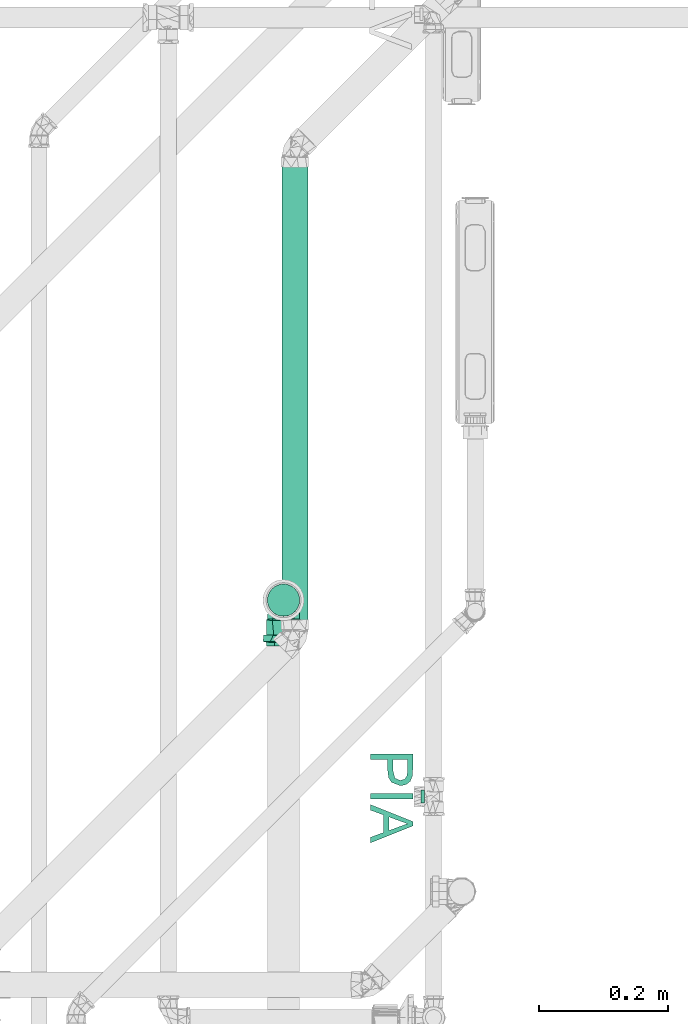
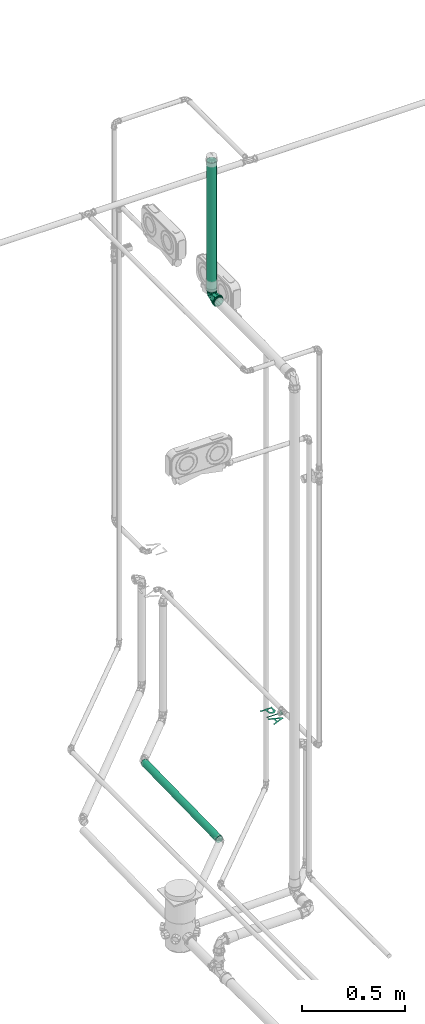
# One storey, part 54 of 589: 2 flow segments, 1 flow fitting, 1 flow terminal.
"""IFC2X3 building model written with IfcOpenShell, lengths in millimetres."""

from ifc_helpers import new_model, entity, si_unit, converted_unit, derived_unit, direction, frame, frame_2d, origin, place, context, subcontext, project, spatial, circle, extrude, face_set, faceted_brep, surface_model, source, transform, mapped, material, type_object, type_shapes, element, save


model = new_model("IFC2X3")

# Units and contexts
model_context = context("Model", 3, precision=0.01, world=origin(), true_north=direction((6.123031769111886e-17, 1.0)))
body_context = subcontext(model_context, "Body", "Model", "MODEL_VIEW")
ifc_project = project(units=[si_unit("LENGTHUNIT", "METRE", prefix="MILLI"), si_unit("AREAUNIT", "SQUARE_METRE"), si_unit("VOLUMEUNIT", "CUBIC_METRE"), converted_unit("PLANEANGLEUNIT", "DEGREE", entity("IfcRatioMeasure", 0.017453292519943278), si_unit("PLANEANGLEUNIT", "RADIAN"), dimensions=[0, 0, 0, 0, 0, 0, 0]), si_unit("MASSUNIT", "GRAM", prefix="KILO"), derived_unit("MASSDENSITYUNIT", [(si_unit("MASSUNIT", "GRAM", prefix="KILO"), 1), (si_unit("LENGTHUNIT", "METRE"), -3)]), derived_unit("IONCONCENTRATIONUNIT", [(si_unit("MASSUNIT", "GRAM", prefix="KILO"), 1), (si_unit("LENGTHUNIT", "METRE"), -3)]), derived_unit("MOMENTOFINERTIAUNIT", [(si_unit("LENGTHUNIT", "METRE"), 4)]), si_unit("TIMEUNIT", "SECOND"), si_unit("FREQUENCYUNIT", "HERTZ"), si_unit("THERMODYNAMICTEMPERATUREUNIT", "DEGREE_CELSIUS"), derived_unit("THERMALTRANSMITTANCEUNIT", [(si_unit("MASSUNIT", "GRAM", prefix="KILO"), 1), (si_unit("THERMODYNAMICTEMPERATUREUNIT", "KELVIN"), -1), (si_unit("TIMEUNIT", "SECOND"), -3)]), derived_unit("THERMALCONDUCTANCEUNIT", [(si_unit("MASSUNIT", "GRAM", prefix="KILO"), 1), (si_unit("THERMODYNAMICTEMPERATUREUNIT", "KELVIN"), -1), (si_unit("TIMEUNIT", "SECOND"), -3), (si_unit("LENGTHUNIT", "METRE"), 1)]), derived_unit("VOLUMETRICFLOWRATEUNIT", [(si_unit("LENGTHUNIT", "METRE"), 3), (si_unit("TIMEUNIT", "SECOND"), -1)]), derived_unit("MASSFLOWRATEUNIT", [(si_unit("MASSUNIT", "GRAM", prefix="KILO"), 1), (si_unit("TIMEUNIT", "SECOND"), -1)]), derived_unit("ROTATIONALFREQUENCYUNIT", [(si_unit("TIMEUNIT", "SECOND"), -1)]), si_unit("ELECTRICCURRENTUNIT", "AMPERE"), si_unit("ELECTRICVOLTAGEUNIT", "VOLT"), si_unit("POWERUNIT", "WATT"), si_unit("FORCEUNIT", "NEWTON", prefix="KILO"), si_unit("ILLUMINANCEUNIT", "LUX"), si_unit("LUMINOUSFLUXUNIT", "LUMEN"), si_unit("LUMINOUSINTENSITYUNIT", "CANDELA"), derived_unit("USERDEFINED", [(si_unit("MASSUNIT", "GRAM", prefix="KILO"), -1), (si_unit("LENGTHUNIT", "METRE"), -2), (si_unit("TIMEUNIT", "SECOND"), 3), (si_unit("LUMINOUSFLUXUNIT", "LUMEN"), 1)]), derived_unit("USERDEFINED", [(si_unit("MASSUNIT", "GRAM", prefix="KILO"), 1), (si_unit("TIMEUNIT", "SECOND"), -3), (si_unit("LENGTHUNIT", "METRE"), 3), (si_unit("ELECTRICCURRENTUNIT", "AMPERE"), -2)]), derived_unit("SOUNDPOWERUNIT", [(si_unit("MASSUNIT", "GRAM", prefix="KILO"), 1), (si_unit("TIMEUNIT", "SECOND"), -3), (si_unit("LENGTHUNIT", "METRE"), 2)]), derived_unit("SOUNDPRESSUREUNIT", [(si_unit("MASSUNIT", "GRAM", prefix="KILO"), 1), (si_unit("LENGTHUNIT", "METRE"), -1), (si_unit("TIMEUNIT", "SECOND"), -2)]), derived_unit("LINEARVELOCITYUNIT", [(si_unit("LENGTHUNIT", "METRE"), 1), (si_unit("TIMEUNIT", "SECOND"), -1)]), si_unit("PRESSUREUNIT", "PASCAL"), derived_unit("USERDEFINED", [(si_unit("MASSUNIT", "GRAM", prefix="KILO"), 1), (si_unit("LENGTHUNIT", "METRE"), -2), (si_unit("TIMEUNIT", "SECOND"), -2)]), derived_unit("LINEARFORCEUNIT", [(si_unit("MASSUNIT", "GRAM", prefix="KILO"), 1), (si_unit("TIMEUNIT", "SECOND"), -2)]), derived_unit("PLANARFORCEUNIT", [(si_unit("MASSUNIT", "GRAM", prefix="KILO"), 1), (si_unit("LENGTHUNIT", "METRE"), -1), (si_unit("TIMEUNIT", "SECOND"), -2)]), derived_unit("SPECIFICHEATCAPACITYUNIT", [(si_unit("THERMODYNAMICTEMPERATUREUNIT", "KELVIN"), -1), (si_unit("LENGTHUNIT", "METRE"), 2), (si_unit("TIMEUNIT", "SECOND"), -2)]), derived_unit("HEATINGVALUEUNIT", [(si_unit("LENGTHUNIT", "METRE"), 2), (si_unit("TIMEUNIT", "SECOND"), -2)]), derived_unit("VAPORPERMEABILITYUNIT", [(si_unit("LENGTHUNIT", "METRE"), -1), (si_unit("TIMEUNIT", "SECOND"), 1)]), derived_unit("DYNAMICVISCOSITYUNIT", [(si_unit("MASSUNIT", "GRAM", prefix="KILO"), 1), (si_unit("TIMEUNIT", "SECOND"), -1), (si_unit("LENGTHUNIT", "METRE"), -1)]), derived_unit("THERMALEXPANSIONCOEFFICIENTUNIT", [(si_unit("THERMODYNAMICTEMPERATUREUNIT", "KELVIN"), -1)]), derived_unit("MODULUSOFELASTICITYUNIT", [(si_unit("MASSUNIT", "GRAM", prefix="KILO"), 1), (si_unit("LENGTHUNIT", "METRE"), -1), (si_unit("TIMEUNIT", "SECOND"), -2)]), derived_unit("ISOTHERMALMOISTURECAPACITYUNIT", [(si_unit("LENGTHUNIT", "METRE"), 3), (si_unit("MASSUNIT", "GRAM", prefix="KILO"), -1)]), derived_unit("MOISTUREDIFFUSIVITYUNIT", [(si_unit("TIMEUNIT", "SECOND"), -1), (si_unit("LENGTHUNIT", "METRE"), 2)])], contexts=[model_context])

# Site, building, storey
site_placement = place(None, origin())
site = spatial("IfcSite", under=ifc_project, at=site_placement, Name="Default", CompositionType="ELEMENT")
building_placement = place(site_placement, origin())
building = spatial("IfcBuilding", under=site, at=building_placement, CompositionType="ELEMENT")
storey_placement = place(building_placement, frame((0.0, 0.0, 100.0)))
storey = spatial("IfcBuildingStorey", under=building, at=storey_placement, Name="TÉRREO", CompositionType="ELEMENT", Elevation=100.0)

# Flow segments
pipe_segment_type = type_object("IfcPipeSegmentType", Name="Tipos de tubos:PVC Esgoto Série Normal", PredefinedType="NOTDEFINED")
flow_segment_1_placement = place(storey_placement, origin())
element("IfcFlowSegment", 1, at=flow_segment_1_placement, inside=storey, type_object=pipe_segment_type, Name="Tipos de tubos:PVC Esgoto Série Normal", ObjectType="Tipos de tubos:PVC Esgoto Série Normal", context=body_context, shape_type="SweptSolid", body=[
    extrude(circle(Radius=20.0, at=frame_2d((3.383959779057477e-14, -4.736596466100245e-15), x_axis=(1.0, 0.0))), frame((127.29114292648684, -7147.499069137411, -239.09676285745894), z_axis=(0.0, 0.999800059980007, 0.01999600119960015), x_axis=(1.0, 0.0, 0.0)), (0.0, 0.0, 1.0), 728.9844830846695),
])
flow_segment_2_placement = place(storey_placement, origin())
element("IfcFlowSegment", 2, at=flow_segment_2_placement, inside=storey, type_object=pipe_segment_type, Name="Tipos de tubos:PVC Esgoto Série Normal", ObjectType="Tipos de tubos:PVC Esgoto Série Normal", context=body_context, shape_type="SweptSolid", body=[
    extrude(circle(Radius=25.0, at=frame_2d((6.767919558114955e-14, 0.0), x_axis=(1.0, 0.0))), frame((109.67377091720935, -7102.551975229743, 3006.9909437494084), z_axis=(0.0, 0.0, 1.0), x_axis=(-1.0, 0.0, 0.0)), (0.0, 0.0, 1.0), 766.509056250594),
])

# Flow fitting
ifc_material_1 = material(Name="PVC Série Normal")
pipe_fitting_type = type_object("IfcPipeFittingType", Name="PVC Esgoto_Joelho 45_90_Rodrigo MEP:a. Série Normal", PredefinedType="NOTDEFINED", material=ifc_material_1)
shared_shape_1 = source(origin(), body_context, "Body", "Brep", [
    faceted_brep([(-6.212752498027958, 25.804714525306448, 24.14814565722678), (-21.392152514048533, 25.95650852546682, 12.500000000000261), (-24.741349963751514, 25.990000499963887, 0.0), (-21.392152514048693, 25.956508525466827, -12.499999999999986), (-6.21275249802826, 25.804714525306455, -24.1481456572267), (6.727552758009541, 25.675311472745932, -24.14814565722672), (21.906952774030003, 25.52351747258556, -12.500000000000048), (25.256150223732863, 25.490025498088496, 0.0), (21.906952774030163, 25.52351747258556, 12.499999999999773), (6.7275527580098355, 25.675311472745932, 24.148145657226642), (25.308147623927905, 30.689765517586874, 0.0), (21.958950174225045, 30.72325749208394, -12.500000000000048), (6.779550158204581, 30.87505149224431, -24.14814565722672), (-6.160755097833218, 31.004454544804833, -24.1481456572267), (-21.34015511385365, 31.156248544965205, -12.499999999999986), (-24.689352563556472, 31.18974051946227, 0.0), (-21.340155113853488, 31.1562485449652, 12.500000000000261), (-6.160755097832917, 31.00445454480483, 24.14814565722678), (6.779550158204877, 30.87505149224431, 24.148145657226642), (21.958950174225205, 30.72325749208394, 12.499999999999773)], [[[0, 1, 2, 3, 4, 5, 6, 7, 8, 9]], [[10, 11, 12, 13, 14, 15, 16, 17, 18, 19]], [[7, 10, 19, 8]], [[8, 19, 18, 9]], [[18, 17, 0, 9]], [[0, 17, 16, 1]], [[1, 16, 15, 2]], [[2, 15, 14, 3]], [[3, 14, 13, 4]], [[13, 12, 5, 4]], [[5, 12, 11, 6]], [[6, 11, 10, 7]]]),
    faceted_brep([(-70.94129996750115, -6.988114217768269, -26.07999730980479), (-70.94129996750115, -6.47047612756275, -24.14814565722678), (-70.94129996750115, 6.4704761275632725, -24.148145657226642), (-70.94129996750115, -23.382685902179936, -13.499999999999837), (-70.94129996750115, 6.988114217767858, -26.0799973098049), (-70.94129996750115, -21.650635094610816, -12.500000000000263), (-70.94129996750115, -25.0, 0.0), (-70.94129996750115, -27.0, 0.0), (-70.94129996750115, -21.650635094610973, 12.499999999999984), (-70.94129996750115, -23.382685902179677, 13.500000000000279), (-70.94129996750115, -6.470476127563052, 24.1481456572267), (-70.94129996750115, -6.98811421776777, 26.079997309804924), (-70.94129996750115, 6.470476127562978, 24.14814565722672), (-70.94129996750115, 6.988114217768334, 26.07999730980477), (-70.94129996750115, 21.650635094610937, 12.500000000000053), (-70.94129996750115, 23.38268590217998, 13.499999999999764), (-70.94129996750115, 27.0, 0.0), (-70.94129996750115, 25.0, 0.0), (-70.94129996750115, 23.382685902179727, -13.500000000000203), (-70.94129996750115, 21.6506350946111, -12.499999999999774), (-30.94129996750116, 21.650635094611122, -12.499999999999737), (-30.94129996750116, 25.0, 0.0), (-30.94129996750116, 6.4704761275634, -24.148145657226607), (-30.94129996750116, -6.470476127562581, -24.148145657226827), (-30.94129996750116, -21.650635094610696, -12.500000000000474), (-30.94129996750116, -25.0, 0.0), (-30.94129996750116, -21.65063509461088, 12.500000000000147), (-30.94129996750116, -6.470476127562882, 24.14814565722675), (-30.94129996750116, 6.470476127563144, 24.148145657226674), (-30.94129996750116, 21.650635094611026, 12.499999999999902), (-30.94129996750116, 27.0, 0.0), (-30.941299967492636, 20.682232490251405, 17.356418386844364), (-30.94129996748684, 4.685536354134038, 26.59033187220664), (-30.94129996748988, -20.686585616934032, 17.35122979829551), (-30.94129996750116, -27.0, 0.0), (-30.941299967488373, -8.000524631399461, 21.970780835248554), (-30.94129996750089, -20.686585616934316, -17.35122979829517), (-30.9412999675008, -4.6922062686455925, -26.589155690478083), (-30.94129996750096, 20.682232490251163, -17.356418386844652), (-30.94129996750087, 7.995013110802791, -21.97278703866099), (-28.74129996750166, -4.338459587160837, -24.62067765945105), (-28.741299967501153, 25.0, 0.0), (-28.741299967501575, 19.154245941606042, -16.065953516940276), (-28.741299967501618, 7.407893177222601, -20.34331558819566), (-28.741299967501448, -19.15021526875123, -16.070757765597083), (-28.741299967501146, -25.0, 0.0), (-28.741299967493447, -19.150215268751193, 16.07075776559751), (-28.741299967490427, -7.402789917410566, 20.345173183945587), (-28.74129996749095, 19.15424594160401, 16.065953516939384), (-28.741299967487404, 4.344635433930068, 24.619588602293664), (-25.741299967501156, 25.0, 0.0), (-25.741299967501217, 19.151286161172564, 16.069481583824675), (-25.741299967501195, 4.341396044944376, 24.62016003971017), (-25.741299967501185, -7.404832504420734, 20.344954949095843), (-25.741299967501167, -19.15106105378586, 16.069749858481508), (-25.741299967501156, -25.0, 0.0), (-25.741299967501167, -19.15106105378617, -16.069749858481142), (-25.741299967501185, -4.341051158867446, -24.62022085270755), (-25.741299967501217, 19.15128616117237, -16.069481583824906), (-25.7412999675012, 7.405117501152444, -20.344851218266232), (-6.212752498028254, 25.80471452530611, -24.1481456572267), (-21.39215251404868, 25.95650852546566, -12.499999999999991), (-24.74134996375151, 25.990000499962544, 0.0), (-21.3921525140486, 25.956508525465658, 12.500000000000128), (-6.2127524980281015, 25.80471452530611, 24.14814565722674), (6.7275527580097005, 25.67531147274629, 24.148145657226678), (21.906952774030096, 25.52351747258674, 12.499999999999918), (25.256150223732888, 25.490025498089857, 0.0), (21.90695277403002, 25.523517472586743, -12.500000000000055), (6.727552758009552, 25.67531147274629, -24.14814565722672), (-0.83580225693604, 1.5246716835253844, 23.354962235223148), (-3.2027279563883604, -15.730161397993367, 0.0), (10.140389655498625, -10.242300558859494, 0.0), (16.135012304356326, 8.632944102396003, 15.848254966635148), (-25.03773742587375, 25.289366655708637, 0.0), (15.761400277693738, 3.0452732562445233, 0.0), (16.135011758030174, 8.632944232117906, -15.848255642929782), (-0.8751695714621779, 1.433288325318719, -23.341145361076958)], [[[0, 1, 2]], [[1, 0, 3]], [[2, 4, 0]], [[3, 5, 1]], [[3, 6, 5]], [[6, 3, 7]], [[8, 6, 7]], [[8, 7, 9]], [[9, 10, 8]], [[9, 11, 10]], [[10, 11, 12]], [[13, 12, 11]], [[13, 14, 12]], [[14, 13, 15]], [[16, 14, 15]], [[17, 14, 16]], [[18, 17, 16]], [[18, 19, 17]], [[19, 18, 4]], [[4, 2, 19]], [[20, 21, 17, 19]], [[22, 20, 19, 2]], [[2, 1, 23, 22]], [[24, 23, 1, 5]], [[25, 24, 5, 6]], [[26, 25, 6, 8]], [[27, 26, 8, 10]], [[10, 12, 28, 27]], [[29, 28, 12, 14]], [[21, 29, 14, 17]], [[16, 15, 30]], [[15, 31, 30]], [[31, 15, 13]], [[31, 13, 32]], [[33, 11, 9]], [[34, 9, 7]], [[11, 33, 35, 32]], [[33, 9, 34]], [[11, 32, 13]], [[7, 3, 34]], [[3, 36, 34]], [[36, 3, 0]], [[36, 0, 37]], [[38, 4, 18]], [[30, 18, 16]], [[4, 38, 39, 37]], [[38, 18, 30]], [[4, 37, 0]], [[28, 29, 21, 20, 22, 23, 24, 25, 26, 27]], [[39, 40, 37]], [[41, 42, 30]], [[30, 42, 38]], [[38, 43, 39]], [[44, 45, 36]], [[38, 42, 43]], [[36, 37, 44]], [[34, 36, 45]], [[40, 39, 43]], [[44, 37, 40]], [[45, 46, 33]], [[33, 34, 45]], [[46, 35, 33]], [[46, 47, 35]], [[47, 32, 35]], [[48, 41, 30]], [[48, 31, 49]], [[31, 48, 30]], [[32, 47, 49]], [[49, 31, 32]], [[41, 48, 50]], [[48, 51, 50]], [[51, 48, 49]], [[51, 49, 52]], [[52, 47, 53]], [[46, 54, 53]], [[46, 45, 54]], [[49, 47, 52]], [[54, 45, 55]], [[47, 46, 53]], [[45, 44, 56]], [[45, 56, 55]], [[56, 44, 57]], [[58, 59, 43]], [[44, 40, 57]], [[40, 59, 57]], [[58, 43, 42]], [[42, 50, 58]], [[50, 42, 41]], [[59, 40, 43]], [[60, 61, 62, 63, 64, 65, 66, 67, 68, 69]], [[52, 70, 51]], [[54, 71, 70]], [[70, 52, 53, 54]], [[72, 73, 70]], [[50, 63, 74]], [[51, 63, 50]], [[54, 55, 71]], [[72, 70, 71]], [[75, 67, 66]], [[65, 70, 73]], [[73, 75, 66]], [[74, 63, 62]], [[73, 66, 65]], [[63, 51, 64]], [[70, 64, 51]], [[73, 72, 75]], [[65, 64, 70]], [[72, 76, 75]], [[71, 55, 56]], [[77, 58, 60]], [[77, 57, 59, 58]], [[77, 71, 56]], [[56, 57, 77]], [[77, 69, 76]], [[58, 50, 61]], [[74, 62, 61]], [[71, 77, 72]], [[61, 60, 58]], [[68, 75, 76]], [[68, 67, 75]], [[72, 77, 76]], [[76, 69, 68]], [[60, 69, 77]], [[61, 50, 74]]]),
    faceted_brep([(-53.94129996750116, 6.9881142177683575, -26.07999730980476), (-53.94129996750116, -6.988114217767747, -26.079997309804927), (-53.94129996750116, -8.282209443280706, -30.909626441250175), (-53.94129996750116, 8.28220944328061, -30.9096264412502), (-53.94129996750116, 23.38268590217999, -13.499999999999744), (-53.94129996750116, -27.712812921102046, -16.0), (-53.94129996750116, -23.38268590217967, -13.500000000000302), (-53.94129996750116, -27.0, 0.0), (-53.94129996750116, -32.0, 0.0), (-53.94129996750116, -23.382685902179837, 13.500000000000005), (-53.94129996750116, -27.712812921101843, 16.0), (-53.94129996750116, -6.988114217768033, 26.07999730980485), (-53.94129996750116, -8.28220944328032, 30.909626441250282), (-53.94129996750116, 6.988114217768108, 26.07999730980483), (-53.94129996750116, 8.282209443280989, 30.909626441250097), (-53.94129996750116, 23.382685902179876, 13.499999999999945), (-53.94129996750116, 27.712812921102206, 16.0), (-53.94129996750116, 32.0, 0.0), (-53.94129996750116, 27.0, 0.0), (-53.94129996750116, 27.712812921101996, -16.0), (-63.94129996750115, 27.0, 0.0), (-65.24129996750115, 27.0, 0.0), (-63.94129996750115, 25.191342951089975, -6.750000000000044), (-63.94129996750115, 23.38268590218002, -13.499999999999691), (-63.94129996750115, 19.284042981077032, -16.644999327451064), (-63.94129996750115, 15.185400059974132, -19.789998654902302), (-63.94129996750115, 11.086757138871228, -22.934997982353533), (-63.94129996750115, 6.988114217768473, -26.07999730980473), (-63.94129996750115, 0.0, -26.079997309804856), (-63.94129996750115, -6.988114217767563, -26.079997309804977), (-63.94129996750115, -11.086757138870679, -22.934997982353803), (-63.94129996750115, -15.185400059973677, -19.789998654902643), (-63.94129996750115, -19.284042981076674, -16.644999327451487), (-63.94129996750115, -23.382685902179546, -13.50000000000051), (-63.94129996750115, -25.191342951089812, -6.750000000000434), (-65.24129996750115, -27.0, 0.0), (-63.94129996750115, -27.0, 0.0), (-63.94129996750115, -25.19134295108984, 6.750000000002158), (-63.94129996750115, -23.382685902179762, 13.500000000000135), (-63.94129996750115, -19.284042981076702, 16.64499932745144), (-63.94129996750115, -15.185400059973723, 19.7899986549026), (-63.94129996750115, -11.086757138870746, 22.934997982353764), (-63.94129996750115, -6.988114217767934, 26.079997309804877), (-63.94129996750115, 0.0, 26.079997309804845), (-63.94129996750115, 6.988114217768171, 26.079997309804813), (-63.94129996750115, 11.086757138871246, 22.93499798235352), (-63.94129996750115, 15.185400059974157, 19.789998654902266), (-63.94129996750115, 19.284042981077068, 16.644999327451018), (-63.94129996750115, 23.382685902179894, 13.499999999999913), (-63.94129996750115, 25.19134295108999, 6.74999999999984), (-63.94129996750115, 32.0, 0.0), (-63.94129996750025, 24.512275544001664, 20.570569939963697), (-63.94129996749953, -5.561133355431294, 31.51307341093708), (-63.94129996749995, -24.51743480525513, 20.56442050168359), (-63.94129996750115, -32.0, 0.0), (-63.9412999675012, -24.51743480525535, -20.564420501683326), (-63.941299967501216, 5.553228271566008, -31.514467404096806), (-63.94129996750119, 24.512275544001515, -20.570569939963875), (-65.2412999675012, -23.84329280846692, -8.675614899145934), (-65.24129996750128, -20.686585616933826, -17.351229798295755), (-65.24129996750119, 23.841116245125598, -8.678209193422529), (-65.24129996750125, 20.6822324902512, -17.356418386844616), (-65.24129996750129, -12.689395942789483, -21.970192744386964), (-65.24129996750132, -4.692206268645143, -26.589155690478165), (-65.24129996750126, 14.338622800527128, -19.664602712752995), (-65.24129996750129, 1.6514034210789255, -24.280971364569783), (-65.24129996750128, 7.995013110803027, -21.97278703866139), (-65.24129996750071, 23.84111624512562, 8.678209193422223), (-65.24129996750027, 20.68223249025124, 17.35641838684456), (-65.24129996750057, -23.843292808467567, 8.675614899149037), (-65.24129996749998, -20.68658561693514, 17.351229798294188), (-65.24129996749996, 12.683884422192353, 21.973375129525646), (-65.24129996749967, 4.685536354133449, 26.590331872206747), (-65.2412999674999, -14.343555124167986, 19.66100531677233), (-65.24129996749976, -1.6574941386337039, 24.280556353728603), (-65.24129996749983, -8.000524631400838, 21.97078083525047)], [[[0, 1, 2]], [[2, 3, 0]], [[4, 0, 3]], [[5, 2, 1]], [[1, 6, 5]], [[6, 7, 5]], [[8, 5, 7]], [[8, 7, 9]], [[10, 8, 9]], [[9, 11, 10]], [[11, 12, 10]], [[13, 12, 11]], [[12, 13, 14]], [[13, 15, 14]], [[16, 14, 15]], [[16, 15, 17]], [[17, 15, 18]], [[18, 4, 19]], [[17, 18, 19]], [[3, 19, 4]], [[4, 18, 20, 21, 22, 23]], [[0, 4, 23, 24, 25, 26, 27]], [[0, 27, 28, 29, 1]], [[6, 1, 29, 30, 31, 32, 33]], [[7, 6, 33, 34, 35, 36]], [[9, 7, 36, 35, 37, 38]], [[11, 9, 38, 39, 40, 41, 42]], [[11, 42, 43, 44, 13]], [[15, 13, 44, 45, 46, 47, 48]], [[18, 15, 48, 49, 21, 20]], [[50, 51, 16]], [[50, 16, 17]], [[16, 51, 14]], [[51, 52, 14]], [[12, 52, 53]], [[10, 53, 54]], [[53, 10, 12]], [[10, 54, 8]], [[52, 12, 14]], [[54, 55, 5]], [[54, 5, 8]], [[5, 55, 2]], [[55, 56, 2]], [[3, 56, 57]], [[19, 57, 50]], [[57, 19, 3]], [[19, 50, 17]], [[56, 3, 2]], [[58, 33, 59]], [[23, 60, 61]], [[32, 31, 59, 33]], [[30, 29, 62, 31]], [[24, 23, 61, 25]], [[29, 28, 63]], [[26, 25, 64]], [[65, 63, 28]], [[31, 62, 59]], [[63, 62, 29]], [[60, 22, 21]], [[34, 58, 35]], [[66, 26, 64]], [[28, 27, 65]], [[27, 66, 65]], [[27, 26, 66]], [[64, 25, 61]], [[34, 33, 58]], [[60, 23, 22]], [[67, 48, 68]], [[38, 69, 70]], [[47, 46, 68, 48]], [[45, 44, 71, 46]], [[39, 38, 70, 40]], [[44, 43, 72]], [[41, 40, 73]], [[74, 72, 43]], [[46, 71, 68]], [[72, 71, 44]], [[69, 37, 35]], [[49, 67, 21]], [[75, 41, 73]], [[43, 42, 74]], [[42, 75, 74]], [[42, 41, 75]], [[73, 40, 70]], [[49, 48, 67]], [[69, 38, 37]], [[54, 35, 58, 59, 55]], [[55, 59, 62, 63]], [[55, 63, 56]], [[57, 61, 60, 21, 50]], [[57, 56, 61]], [[56, 63, 65, 66, 64, 61]], [[50, 21, 67, 68, 51]], [[51, 68, 71, 72]], [[51, 72, 52]], [[53, 70, 69, 35, 54]], [[53, 52, 70]], [[52, 72, 74, 75, 73, 70]]]),
])
type_shapes(pipe_fitting_type, [shared_shape_1])
flow_fitting_placement = place(storey_placement, frame((109.67377091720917, -7102.551975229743, 2976.049643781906), z_axis=(1.0, 0.0, 0.0), x_axis=(0.0, 0.9999500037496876, 0.009999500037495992)))
element("IfcFlowFitting", 3, at=flow_fitting_placement, inside=storey, type_object=pipe_fitting_type, material=ifc_material_1, Name="PVC Esgoto_Joelho 45_90_Rodrigo MEP:a. Série Normal", ObjectType="PVC Esgoto_Joelho 45_90_Rodrigo MEP:a. Série Normal", context=body_context, shape_type="MappedRepresentation", body=[
    mapped(shared_shape_1, transform((0.0, 0.0, 0.0), scale=1.0)),
])

# Flow terminal
ifc_material_2 = material(Name="<Unnamed>")
distribution_element_type = type_object("IfcDistributionElementType", Name="Hidráulica_Ponto de Utilização_Uso Provável_Rodrigo MEP:Pia com torneira ou misturador(Peso 0,7)", material=ifc_material_2)
shared_shape_2 = source(origin(), body_context, "Body", "SurfaceModel", [
    surface_model("IfcFaceBasedSurfaceModel", [(0.0, 0.0, 11.595272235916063), (8.162075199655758, 0.0, 11.595272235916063), (8.162075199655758, 26.52674439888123, 11.595272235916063), (24.757232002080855, 26.52674439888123, 11.595272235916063), (36.352719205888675, 27.96945495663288, 11.595272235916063), (43.7197094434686, 32.29758662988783, 11.595272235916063), (48.97245119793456, 46.405861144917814, 11.595272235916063), (47.02758171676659, 55.30921856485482, 11.595272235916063), (41.88643083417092, 61.62207360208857, 11.595272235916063), (33.95550815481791, 64.67488102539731, 11.595272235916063), (24.199277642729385, 65.2966015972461, 11.595272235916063), (0.0, 65.2966015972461, 11.595272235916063), (8.162075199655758, 34.68881959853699, 11.595272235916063), (8.162075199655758, 57.13452639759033, 11.595272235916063), (25.044179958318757, 57.13452639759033, 11.595272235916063), (33.20625515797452, 56.57657203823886, 11.595272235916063), (38.71406176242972, 52.878131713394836, 11.595272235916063), (40.81037599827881, 46.11891318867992, 11.595272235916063), (37.25540965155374, 37.685831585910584, 11.595272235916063), (25.235478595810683, 34.68881959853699, 11.595272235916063), (61.21556399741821, 0.0, 11.595272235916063), (69.37763919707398, 0.0, 11.595272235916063), (69.37763919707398, 65.2966015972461, 11.595272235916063), (61.21556399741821, 65.2966015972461, 11.595272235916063), (78.0976687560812, 0.0, 11.595272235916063), (86.72204899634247, 0.0, 11.595272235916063), (94.18269585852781, 20.405187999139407, 11.595272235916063), (121.07609597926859, 20.405187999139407, 11.595272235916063), (128.55268439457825, 0.0, 11.595272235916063), (137.17706463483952, 0.0, 11.595272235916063), (111.11262527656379, 65.2966015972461, 11.595272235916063), (104.16210811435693, 65.2966015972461, 11.595272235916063), (97.17970784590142, 28.567263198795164, 11.595272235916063), (103.5722706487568, 46.02326386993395, 11.595272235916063), (107.63736669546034, 57.13452639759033, 11.595272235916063), (112.21259244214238, 44.62040719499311, 11.595272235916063), (118.0950255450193, 28.567263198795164, 11.595272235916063), (55.806731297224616, 78.06704158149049, 11.595272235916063), (56.14747303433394, 78.06704158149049, 14.18346268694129), (57.14647725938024, 78.06704158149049, 16.595272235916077), (58.735663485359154, 78.06704158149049, 18.666340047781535), (60.80673129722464, 78.06704158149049, 20.255526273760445), (63.218540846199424, 78.06704158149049, 21.254530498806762), (65.80673129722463, 78.06704158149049, 21.59527223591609), (68.39492174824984, 78.06704158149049, 21.254530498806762), (70.80673129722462, 78.06704158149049, 20.255526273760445), (72.87779910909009, 78.06704158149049, 18.666340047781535), (74.46698533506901, 78.06704158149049, 16.595272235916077), (75.4659895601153, 78.06704158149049, 14.18346268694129), (75.80673129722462, 78.06704158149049, 11.595272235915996), (75.46598956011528, 78.06704158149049, 9.007081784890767), (74.46698533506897, 78.06704158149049, 6.595272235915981), (72.87779910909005, 78.06704158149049, 4.524204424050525), (70.80673129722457, 78.06704158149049, 2.9350181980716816), (68.39492174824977, 78.06704158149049, 1.936013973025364), (65.80673129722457, 78.06704158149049, 1.5952722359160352), (63.218540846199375, 78.06704158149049, 1.936013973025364), (60.80673129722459, 78.06704158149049, 2.9350181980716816), (58.73566348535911, 78.06704158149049, 4.524204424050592), (57.14647725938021, 78.06704158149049, 6.595272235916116), (56.14747303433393, 78.06704158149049, 9.007081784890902), (55.806731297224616, 83.06704158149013, 11.595272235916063), (56.14747303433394, 83.06704158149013, 14.18346268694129), (57.14647725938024, 83.06704158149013, 16.595272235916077), (58.735663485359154, 83.06704158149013, 18.666340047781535), (60.80673129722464, 83.06704158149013, 20.255526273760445), (63.218540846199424, 83.06704158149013, 21.254530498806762), (65.80673129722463, 83.06704158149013, 21.59527223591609), (68.39492174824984, 83.06704158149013, 21.254530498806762), (70.80673129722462, 83.06704158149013, 20.255526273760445), (72.87779910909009, 83.06704158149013, 18.666340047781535), (74.46698533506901, 83.06704158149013, 16.595272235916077), (75.4659895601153, 83.06704158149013, 14.18346268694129), (75.80673129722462, 83.06704158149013, 11.595272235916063), (75.46598956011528, 83.06704158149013, 9.007081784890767), (74.46698533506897, 83.06704158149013, 6.595272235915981), (72.87779910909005, 83.06704158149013, 4.524204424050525), (70.80673129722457, 83.06704158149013, 2.9350181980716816), (68.39492174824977, 83.06704158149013, 1.936013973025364), (65.80673129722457, 83.06704158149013, 1.5952722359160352), (63.218540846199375, 83.06704158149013, 1.936013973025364), (60.80673129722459, 83.06704158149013, 2.9350181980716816), (58.73566348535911, 83.06704158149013, 4.524204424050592), (57.14647725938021, 83.06704158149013, 6.595272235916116), (56.14747303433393, 83.06704158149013, 9.007081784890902)], [face_set([[[0, 1, 2, 3, 4, 5, 6, 7, 8, 9, 10, 11], [12, 13, 14, 15, 16, 17, 18, 19]], [[20, 21, 22, 23]], [[24, 25, 26, 27, 28, 29, 30, 31], [32, 33, 34, 35, 36]]]), face_set([[[37, 38, 39, 40, 41, 42, 43, 44, 45, 46, 47, 48, 49, 50, 51, 52, 53, 54, 55, 56, 57, 58, 59, 60]], [[61, 62, 63, 64, 65, 66, 67, 68, 69, 70, 71, 72, 73, 74, 75, 76, 77, 78, 79, 80, 81, 82, 83, 84]], [[61, 84, 60, 37]], [[84, 83, 59, 60]], [[82, 81, 57, 58]], [[83, 82, 58, 59]], [[81, 80, 56, 57]], [[55, 56, 80, 79]], [[79, 78, 54, 55]], [[78, 77, 53, 54]], [[76, 75, 51, 52]], [[77, 76, 52, 53]], [[75, 74, 50, 51]], [[49, 50, 74, 73]], [[73, 72, 48, 49]], [[72, 71, 47, 48]], [[70, 69, 45, 46]], [[71, 70, 46, 47]], [[69, 68, 44, 45]], [[43, 44, 68, 67]], [[67, 66, 42, 43]], [[66, 65, 41, 42]], [[64, 63, 39, 40]], [[65, 64, 40, 41]], [[63, 62, 38, 39]], [[37, 38, 62, 61]]])]),
])
type_shapes(distribution_element_type, [shared_shape_2])
flow_terminal_placement = place(storey_placement, frame((243.97535061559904, -7340.2565267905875, 588.4047277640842), z_axis=(0.0, 0.0, 1.0), x_axis=(0.0, -1.0, 0.0)))
element("IfcFlowTerminal", 4, at=flow_terminal_placement, inside=storey, type_object=distribution_element_type, material=ifc_material_2, Name="Hidráulica_Ponto de Utilização_Uso Provável_Rodrigo MEP:Pia com torneira ou misturador(Peso 0,7)", ObjectType="Hidráulica_Ponto de Utilização_Uso Provável_Rodrigo MEP:Pia com torneira ou misturador(Peso 0,7)", context=body_context, shape_type="MappedRepresentation", body=[
    mapped(shared_shape_2, transform((0.0, 0.0, 0.0), scale=1.0)),
])

save(model, "model.ifc")
